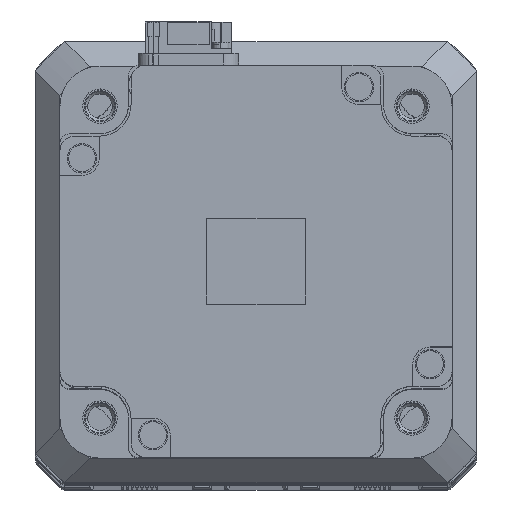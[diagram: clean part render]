
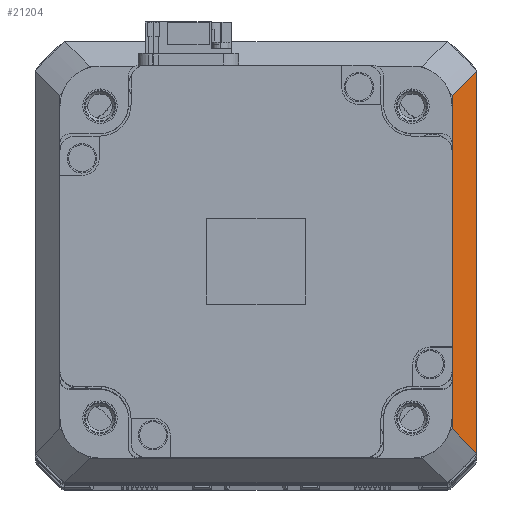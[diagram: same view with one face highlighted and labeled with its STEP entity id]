
A CAD part, top view. The second image highlights one B-rep face of the part: STEP entity #21204.
In plain terms, the highlighted planar face has unit normal (0.707, 0, 0.707).
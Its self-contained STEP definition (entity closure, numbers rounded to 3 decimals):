
#1736 = CARTESIAN_POINT ( 'NONE',  ( 45., -39.003, 94. ) ) ;
#2398 = DIRECTION ( 'NONE',  ( 0., -1., 0. ) ) ;
#4587 = CARTESIAN_POINT ( 'NONE',  ( 45., 39.003, 94. ) ) ;
#4922 = CARTESIAN_POINT ( 'NONE',  ( 40., -34.004, 99. ) ) ;
#9495 = VERTEX_POINT ( 'NONE', #35460 ) ;
#10601 = FACE_OUTER_BOUND ( 'NONE', #47458, .T. ) ;
#10900 = LINE ( 'NONE', #45717, #49239 ) ;
#12685 = CARTESIAN_POINT ( 'NONE',  ( 45., -39.003, 94. ) ) ;
#13343 = DIRECTION ( 'NONE',  ( 0., 1., 0. ) ) ;
#14333 = VERTEX_POINT ( 'NONE', #47786 ) ;
#15183 = B_SPLINE_CURVE_WITH_KNOTS ( 'NONE', 3,
 ( #40004, #16353, #28262, #4587 ),
 .UNSPECIFIED., .F., .F.,
 ( 4, 4 ),
 ( 0., 0.009 ),
 .UNSPECIFIED. ) ;
#16353 = CARTESIAN_POINT ( 'NONE',  ( 41.666, 35.671, 97.334 ) ) ;
#16680 = CARTESIAN_POINT ( 'NONE',  ( 43.333, -37.337, 95.667 ) ) ;
#16722 = PLANE ( 'NONE',  #30681 ) ;
#17298 = VECTOR ( 'NONE', #13343, 1000. ) ;
#17299 = EDGE_CURVE ( 'NONE', #14333, #25595, #10900, .T. ) ;
#20540 = B_SPLINE_CURVE_WITH_KNOTS ( 'NONE', 3,
 ( #12685, #16680, #28605, #4922 ),
 .UNSPECIFIED., .F., .F.,
 ( 4, 4 ),
 ( 0., 0.009 ),
 .UNSPECIFIED. ) ;
#20712 = DIRECTION ( 'NONE',  ( 0.707, 0., -0.707 ) ) ;
#21204 = ADVANCED_FACE ( 'NONE', ( #10601 ), #16722, .F. ) ;
#23681 = EDGE_CURVE ( 'NONE', #37460, #14333, #15183, .T. ) ;
#24604 = ORIENTED_EDGE ( 'NONE', *, *, #41426, .F. ) ;
#25566 = CARTESIAN_POINT ( 'NONE',  ( 40., 34.004, 99. ) ) ;
#25595 = VERTEX_POINT ( 'NONE', #1736 ) ;
#27817 = LINE ( 'NONE', #32880, #17298 ) ;
#28262 = CARTESIAN_POINT ( 'NONE',  ( 43.333, 37.337, 95.667 ) ) ;
#28605 = CARTESIAN_POINT ( 'NONE',  ( 41.666, -35.671, 97.334 ) ) ;
#30681 = AXIS2_PLACEMENT_3D ( 'NONE', #40381, #44346, #20712 ) ;
#32880 = CARTESIAN_POINT ( 'NONE',  ( 40., 0., 99. ) ) ;
#35050 = ORIENTED_EDGE ( 'NONE', *, *, #17299, .F. ) ;
#35460 = CARTESIAN_POINT ( 'NONE',  ( 40., -34.004, 99. ) ) ;
#37460 = VERTEX_POINT ( 'NONE', #25566 ) ;
#40004 = CARTESIAN_POINT ( 'NONE',  ( 40., 34.004, 99. ) ) ;
#40381 = CARTESIAN_POINT ( 'NONE',  ( 42.5, 0., 96.5 ) ) ;
#41426 = EDGE_CURVE ( 'NONE', #9495, #37460, #27817, .T. ) ;
#44346 = DIRECTION ( 'NONE',  ( -0.707, 0., -0.707 ) ) ;
#45717 = CARTESIAN_POINT ( 'NONE',  ( 45., -24., 94. ) ) ;
#47458 = EDGE_LOOP ( 'NONE', ( #51128, #24604, #50540, #35050 ) ) ;
#47786 = CARTESIAN_POINT ( 'NONE',  ( 45., 39.003, 94. ) ) ;
#49239 = VECTOR ( 'NONE', #2398, 1000. ) ;
#49269 = EDGE_CURVE ( 'NONE', #25595, #9495, #20540, .T. ) ;
#50540 = ORIENTED_EDGE ( 'NONE', *, *, #49269, .F. ) ;
#51128 = ORIENTED_EDGE ( 'NONE', *, *, #23681, .F. ) ;
